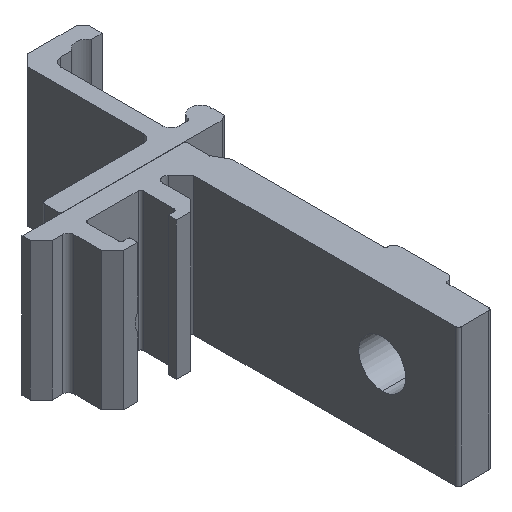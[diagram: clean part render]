
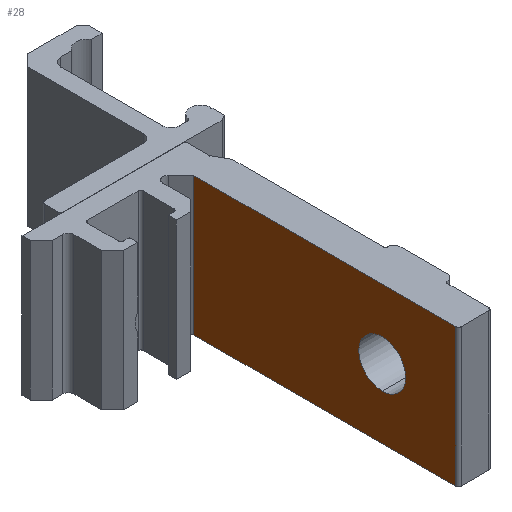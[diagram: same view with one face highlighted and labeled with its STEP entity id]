
A CAD part, isometric view. The second image highlights one B-rep face of the part: STEP entity #28.
In plain terms, the highlighted planar face has unit normal (-1, 0, 0).
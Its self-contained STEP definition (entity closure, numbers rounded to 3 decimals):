
#28 = ADVANCED_FACE ( 'NONE', ( #507, #1305 ), #358, .F. ) ;
#57 = VECTOR ( 'NONE', #1079, 1000. ) ;
#96 = CARTESIAN_POINT ( 'NONE',  ( -104.703, -31.465, 12.5 ) ) ;
#112 = CARTESIAN_POINT ( 'NONE',  ( -104.703, -44.765, 25. ) ) ;
#193 = DIRECTION ( 'NONE',  ( 0., 0., 1. ) ) ;
#194 = EDGE_CURVE ( 'NONE', #441, #1254, #429, .T. ) ;
#267 = CARTESIAN_POINT ( 'NONE',  ( -104.703, -31.465, 16.75 ) ) ;
#303 = VERTEX_POINT ( 'NONE', #1069 ) ;
#317 = DIRECTION ( 'NONE',  ( 1., 0., 0. ) ) ;
#323 = DIRECTION ( 'NONE',  ( 0., 0., 1. ) ) ;
#325 = ORIENTED_EDGE ( 'NONE', *, *, #194, .F. ) ;
#358 = PLANE ( 'NONE',  #972 ) ;
#420 = ORIENTED_EDGE ( 'NONE', *, *, #1269, .F. ) ;
#421 = CARTESIAN_POINT ( 'NONE',  ( -104.703, -31.465, 12.5 ) ) ;
#429 = CIRCLE ( 'NONE', #1108, 4.25 ) ;
#441 = VERTEX_POINT ( 'NONE', #2018 ) ;
#473 = VECTOR ( 'NONE', #1943, 1000. ) ;
#507 = FACE_BOUND ( 'NONE', #911, .T. ) ;
#540 = LINE ( 'NONE', #2538, #473 ) ;
#654 = DIRECTION ( 'NONE',  ( -1., 0., 0. ) ) ;
#763 = VECTOR ( 'NONE', #1529, 1000. ) ;
#766 = EDGE_CURVE ( 'NONE', #1229, #303, #1777, .T. ) ;
#787 = CARTESIAN_POINT ( 'NONE',  ( -104.703, 2.637, 25. ) ) ;
#819 = CIRCLE ( 'NONE', #910, 4.25 ) ;
#910 = AXIS2_PLACEMENT_3D ( 'NONE', #96, #654, #323 ) ;
#911 = EDGE_LOOP ( 'NONE', ( #420, #325 ) ) ;
#922 = ORIENTED_EDGE ( 'NONE', *, *, #1984, .F. ) ;
#972 = AXIS2_PLACEMENT_3D ( 'NONE', #2540, #317, #1711 ) ;
#1069 = CARTESIAN_POINT ( 'NONE',  ( -104.703, -44.765, 0. ) ) ;
#1079 = DIRECTION ( 'NONE',  ( 0., -1., 0. ) ) ;
#1108 = AXIS2_PLACEMENT_3D ( 'NONE', #421, #1986, #193 ) ;
#1121 = VERTEX_POINT ( 'NONE', #2049 ) ;
#1135 = LINE ( 'NONE', #2328, #763 ) ;
#1212 = CARTESIAN_POINT ( 'NONE',  ( -104.703, -44.765, 25. ) ) ;
#1229 = VERTEX_POINT ( 'NONE', #2076 ) ;
#1254 = VERTEX_POINT ( 'NONE', #267 ) ;
#1269 = EDGE_CURVE ( 'NONE', #1254, #441, #819, .T. ) ;
#1305 = FACE_OUTER_BOUND ( 'NONE', #1604, .T. ) ;
#1331 = ORIENTED_EDGE ( 'NONE', *, *, #2054, .T. ) ;
#1439 = VERTEX_POINT ( 'NONE', #787 ) ;
#1529 = DIRECTION ( 'NONE',  ( 0., -1., 0. ) ) ;
#1604 = EDGE_LOOP ( 'NONE', ( #1331, #2270, #922, #1615 ) ) ;
#1613 = EDGE_CURVE ( 'NONE', #1439, #1121, #540, .T. ) ;
#1615 = ORIENTED_EDGE ( 'NONE', *, *, #1613, .T. ) ;
#1665 = LINE ( 'NONE', #112, #57 ) ;
#1711 = DIRECTION ( 'NONE',  ( 0., 0., -1. ) ) ;
#1777 = LINE ( 'NONE', #1212, #2425 ) ;
#1943 = DIRECTION ( 'NONE',  ( 0., 0., -1. ) ) ;
#1984 = EDGE_CURVE ( 'NONE', #1439, #1229, #1665, .T. ) ;
#1986 = DIRECTION ( 'NONE',  ( -1., 0., 0. ) ) ;
#2018 = CARTESIAN_POINT ( 'NONE',  ( -104.703, -31.465, 8.25 ) ) ;
#2049 = CARTESIAN_POINT ( 'NONE',  ( -104.703, 2.637, 0. ) ) ;
#2054 = EDGE_CURVE ( 'NONE', #1121, #303, #1135, .T. ) ;
#2076 = CARTESIAN_POINT ( 'NONE',  ( -104.703, -44.765, 25. ) ) ;
#2270 = ORIENTED_EDGE ( 'NONE', *, *, #766, .F. ) ;
#2328 = CARTESIAN_POINT ( 'NONE',  ( -104.703, -44.765, 0. ) ) ;
#2425 = VECTOR ( 'NONE', #2570, 1000. ) ;
#2538 = CARTESIAN_POINT ( 'NONE',  ( -104.703, 2.637, 25. ) ) ;
#2540 = CARTESIAN_POINT ( 'NONE',  ( -104.703, -44.765, 25. ) ) ;
#2570 = DIRECTION ( 'NONE',  ( 0., 0., -1. ) ) ;
